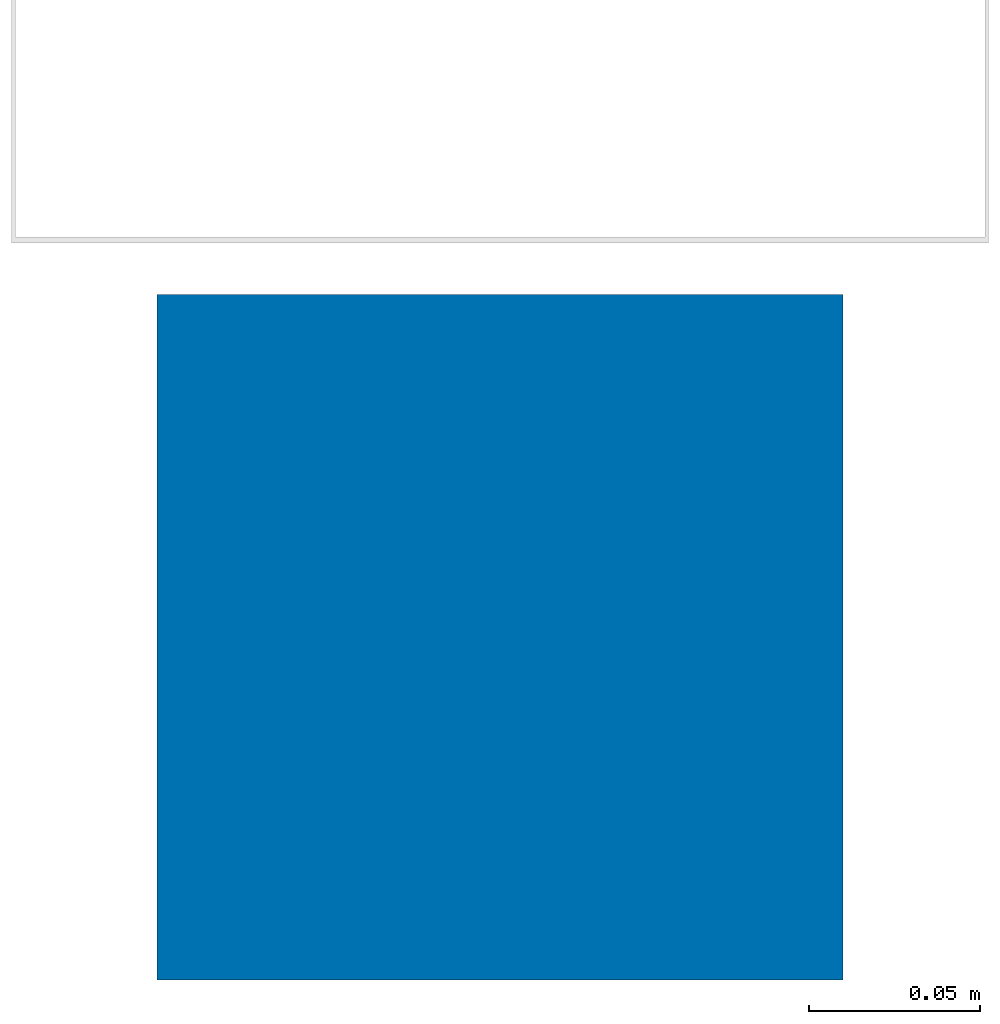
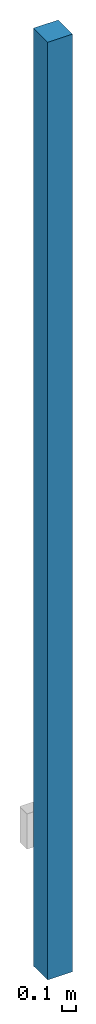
# One storey, part 1 of 2: 1 wall.
"""IFC2X3 building model written with IfcOpenShell, lengths in millimetres."""

from ifc_helpers import new_model, entity, si_unit, converted_unit, derived_unit, direction, frame, frame_2d, origin, place, context, subcontext, project, spatial, rectangle, extrude, material, layer, layer_set, layer_usage, type_object, element, save


model = new_model("IFC2X3")

# Units and contexts
model_context = context("Model", 3, precision=0.01, world=origin(), true_north=direction((6.12303176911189e-17, 1.0)))
context_of_model = context(None, 3, precision=0.01, world=origin(), true_north=direction((6.12303176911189e-17, 1.0)))
body_context = subcontext(model_context, "Body", "Model", "MODEL_VIEW")
ifc_project = project(units=[si_unit("LENGTHUNIT", "METRE", prefix="MILLI"), si_unit("AREAUNIT", "SQUARE_METRE"), si_unit("VOLUMEUNIT", "CUBIC_METRE"), converted_unit("PLANEANGLEUNIT", "DEGREE", entity("IfcRatioMeasure", 0.0174532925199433), si_unit("PLANEANGLEUNIT", "RADIAN"), dimensions=[0, 0, 0, 0, 0, 0, 0]), si_unit("MASSUNIT", "GRAM", prefix="KILO"), si_unit("TIMEUNIT", "SECOND"), si_unit("FREQUENCYUNIT", "HERTZ"), si_unit("THERMODYNAMICTEMPERATUREUNIT", "DEGREE_CELSIUS"), derived_unit("THERMALTRANSMITTANCEUNIT", [(si_unit("MASSUNIT", "GRAM", prefix="KILO"), 1), (si_unit("THERMODYNAMICTEMPERATUREUNIT", "KELVIN"), -1), (si_unit("TIMEUNIT", "SECOND"), -3)]), derived_unit("VOLUMETRICFLOWRATEUNIT", [(si_unit("LENGTHUNIT", "METRE"), 3), (si_unit("TIMEUNIT", "SECOND"), -1)]), si_unit("ELECTRICCURRENTUNIT", "AMPERE"), si_unit("ELECTRICVOLTAGEUNIT", "VOLT"), si_unit("POWERUNIT", "WATT"), si_unit("FORCEUNIT", "NEWTON", prefix="KILO"), si_unit("ILLUMINANCEUNIT", "LUX"), si_unit("LUMINOUSFLUXUNIT", "LUMEN"), si_unit("LUMINOUSINTENSITYUNIT", "CANDELA"), si_unit("PRESSUREUNIT", "PASCAL")], contexts=[model_context, context_of_model])

# Site, building, storey
site_placement = place(None, origin())
site = spatial("IfcSite", under=ifc_project, at=site_placement, Name="Default", CompositionType="ELEMENT")
building_placement = place(site_placement, origin())
building = spatial("IfcBuilding", under=site, at=building_placement, CompositionType="ELEMENT")
storey_placement = place(building_placement, origin())
storey = spatial("IfcBuildingStorey", under=building, at=storey_placement, Name="Level 1", CompositionType="ELEMENT", Elevation=0.0)

# Wall
ifc_material = material(Name="Default Wall")
ifc_layer = layer(ifc_material, 200.0)
ifc_layer_set = layer_set([ifc_layer], Name="Basic Wall:Generic - 200mm")
ifc_layer_usage = layer_usage(ifc_layer_set, "AXIS2", "NEGATIVE", 100.0)
wall_type = type_object("IfcWallType", Name="Basic Wall:Generic - 200mm", PredefinedType="STANDARD", material=ifc_layer_set)
wall_placement = place(storey_placement, frame((-589.358245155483, -73.2930622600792, 0.0)))
element("IfcWallStandardCase", 1, at=wall_placement, inside=storey, type_object=wall_type, material=ifc_layer_usage, Name="Basic Wall:Generic - 200mm", ObjectType="Basic Wall:Generic - 200mm:249", context=body_context, shape_type="SweptSolid", body=[
    extrude(rectangle(XDim=200.0, YDim=200.0, at=frame_2d((100.0, 0.0), x_axis=(-1.0, 0.0))), origin(), (0.0, 0.0, 1.0), 8000.0),
])

save(model, "model.ifc")
